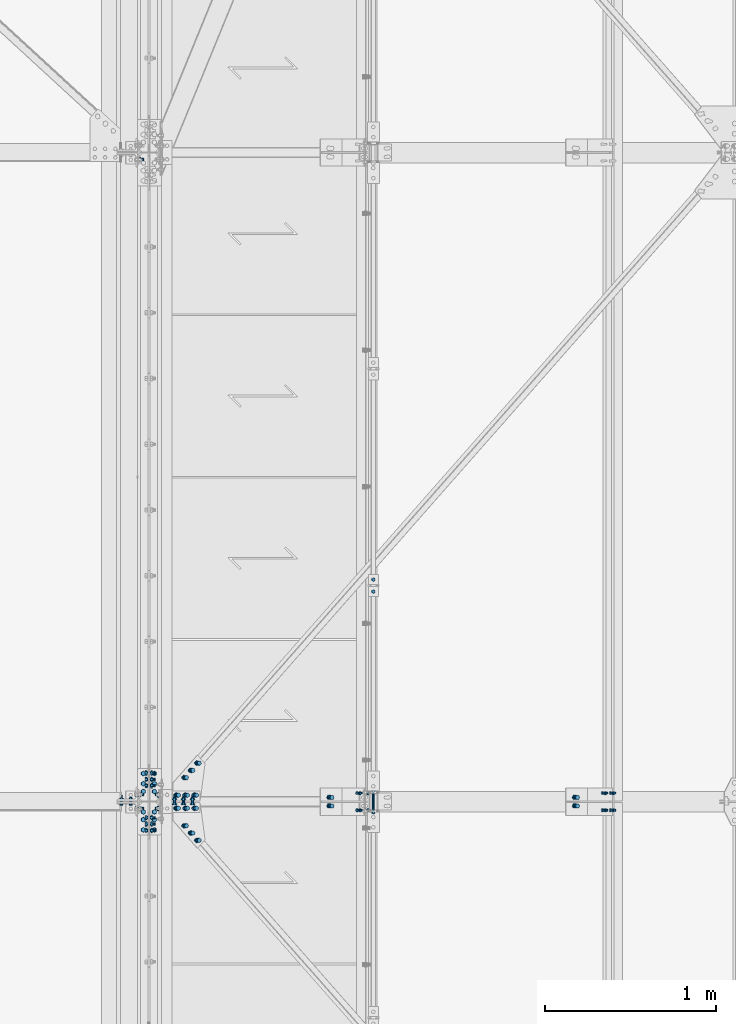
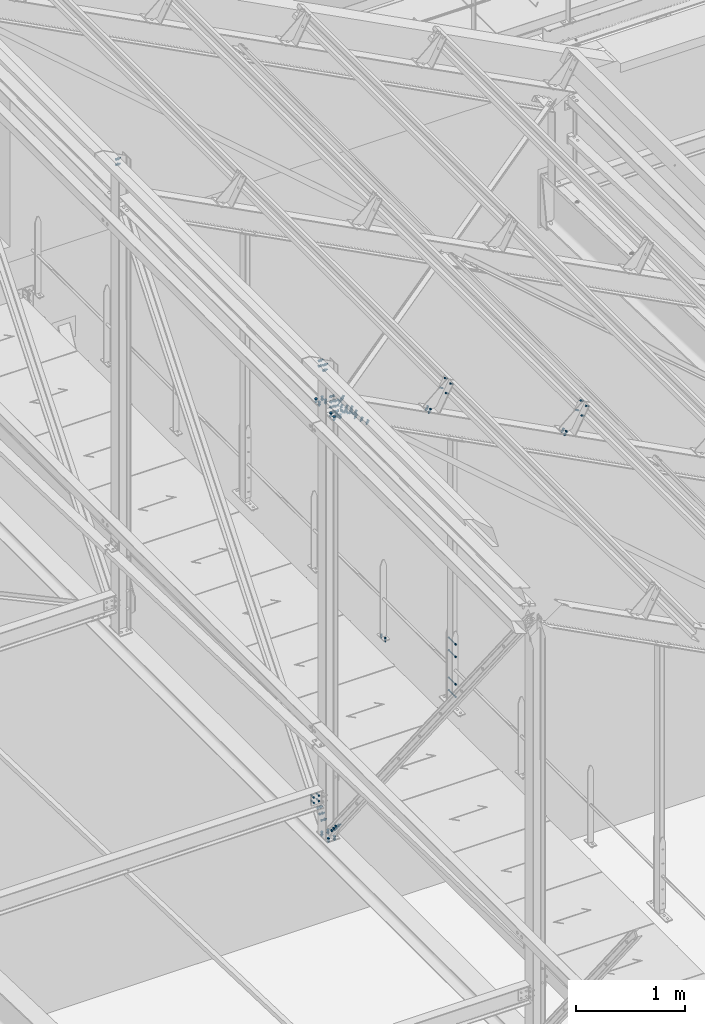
# One storey, part 153 of 362: 24 mechanical fasteners.
"""IFC2X3 building model written with IfcOpenShell, lengths in millimetres."""

from ifc_helpers import new_model, si_unit, frame, origin_with_axes, origin_2d_with_axis, place, context, subcontext, project, spatial, polyline, circle, outline, extrude, source, transform, mapped, material, type_object, element, save


model = new_model("IFC2X3")

# Units and contexts
model_context = context("Model", 3, precision=1e-05, world=origin_with_axes())
body_context = subcontext(model_context, "Body", "Model", "MODEL_VIEW")
ifc_project = project(units=[si_unit("LENGTHUNIT", "METRE", prefix="MILLI"), si_unit("AREAUNIT", "SQUARE_METRE"), si_unit("VOLUMEUNIT", "CUBIC_METRE"), si_unit("MASSUNIT", "GRAM", prefix="KILO"), si_unit("TIMEUNIT", "SECOND"), si_unit("PLANEANGLEUNIT", "RADIAN"), si_unit("SOLIDANGLEUNIT", "STERADIAN"), si_unit("THERMODYNAMICTEMPERATUREUNIT", "DEGREE_CELSIUS"), si_unit("LUMINOUSINTENSITYUNIT", "LUMEN")], contexts=[model_context])

# Site, building, storey
site_placement = place(None, origin_with_axes())
site = spatial("IfcSite", under=ifc_project, at=site_placement, Name="Undefined", CompositionType="ELEMENT")
building_placement = place(site_placement, origin_with_axes())
building = spatial("IfcBuilding", under=site, at=building_placement, Name="Undefined", CompositionType="ELEMENT")
storey_placement = place(building_placement, origin_with_axes())
storey = spatial("IfcBuildingStorey", under=building, at=storey_placement, Name="Undefined", CompositionType="ELEMENT", Elevation=0.0)

# Mechanical fasteners
ifc_material_1 = material(Name="#_SB-8.8-ZINGUE")
mechanical_fastener_type = type_object("IfcMechanicalFastenerType", Name="Bolt assembly")
shared_shape_1 = source(origin_with_axes(), body_context, "Body", "SweptSolid", [
    extrude(circle(Radius=9.0, at=origin_2d_with_axis()), frame((0.0, -5.8999542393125, 0.0), z_axis=(0.0, 1.0, 0.0), x_axis=(1.0, 0.0, 0.0)), (0.0, 0.0, 1.0), 6.0),
    extrude(circle(Radius=9.0, at=origin_2d_with_axis()), frame((0.0, -0.100011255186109, 0.0), z_axis=(0.0, 1.0, 0.0), x_axis=(1.0, 0.0, 0.0)), (0.0, 0.0, 1.0), 6.1),
    extrude(outline(polyline([(13.85640646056, 0.0), (6.92820323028, 12.0000000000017), (-6.92820323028, 12.0000000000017), (-13.85640646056, 0.0), (-6.92820323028, -12.0000000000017), (6.92820323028, -12.0000000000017), (13.85640646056, 0.0)])), frame((0.0, -16.5599735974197, 0.0), z_axis=(0.0, 1.0, 0.0), x_axis=(1.0, 0.0, 0.0)), (0.0, 0.0, 1.0), 10.56),
    extrude(circle(Radius=8.0, at=origin_2d_with_axis()), frame((0.0, -5.9999542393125, 0.0), z_axis=(0.0, 1.0, 0.0), x_axis=(1.0, 0.0, 0.0)), (0.0, 0.0, 1.0), 40.0),
    extrude(outline(polyline([(15.3344231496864, 0.0), (7.6672115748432, 13.2800000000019), (-7.6672115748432, 13.2800000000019), (-15.3344231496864, 0.0), (-7.6672115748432, -13.2800000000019), (7.6672115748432, -13.2800000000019), (15.3344231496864, 0.0)])), frame((0.0, 6.0, 0.0), z_axis=(0.0, 1.0, 0.0), x_axis=(1.0, 0.0, 0.0)), (0.0, 0.0, 1.0), 10.56),
])
for number, where, z_axis, x_axis, name in (
    (1, (12892.768595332, 7740.99049605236, 11959.887079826), (-0.628485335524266, 0.704921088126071, 0.328774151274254), (0.624617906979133, 0.7092857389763, -0.326750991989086), "Bolt assembly"),
    (2, (12892.7685915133, 7459.00950968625, 11959.8870840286), (0.628485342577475, 0.704921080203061, -0.328774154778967), (0.624617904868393, -0.709285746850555, -0.326750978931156), "Bolt assembly"),
):
    element("IfcMechanicalFastener", number, at=place(storey_placement, frame(where, z_axis=z_axis, x_axis=x_axis)), inside=storey, type_object=mechanical_fastener_type, material=ifc_material_1, Name=name, NominalDiameter=16.0, NominalLength=40.0, context=body_context, shape_type="MappedRepresentation", body=[
        mapped(shared_shape_1, transform((0.0, 0.0, 0.0))),
        mapped(shared_shape_1, transform((60.0, 0.0, 0.0))),
        mapped(shared_shape_1, transform((120.0, 0.0, 0.0))),
    ])
shared_shape_2 = source(origin_with_axes(), body_context, "Body", "SweptSolid", [
    extrude(circle(Radius=9.0, at=origin_2d_with_axis()), frame((0.0, 0.1, 0.0), z_axis=(0.0, 1.0, 0.0), x_axis=(1.0, 0.0, 0.0)), (0.0, 0.0, 1.0), 6.0),
    extrude(circle(Radius=9.0, at=origin_2d_with_axis()), frame((0.0, 5.90002706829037, 0.0), z_axis=(0.0, 1.0, 0.0), x_axis=(1.0, 0.0, 0.0)), (0.0, 0.0, 1.0), 6.1),
    extrude(outline(polyline([(13.85640646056, 0.0), (6.92820323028, 12.0000000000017), (-6.92820323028, 12.0000000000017), (-13.85640646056, 0.0), (-6.92820323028, -12.0000000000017), (6.92820323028, -12.0000000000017), (13.85640646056, 0.0)])), frame((0.0, -10.5600019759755, 0.0), z_axis=(0.0, 1.0, 0.0), x_axis=(1.0, 0.0, 0.0)), (0.0, 0.0, 1.0), 10.56),
    extrude(circle(Radius=8.0, at=origin_2d_with_axis()), frame((0.0, 0.0, 0.0), z_axis=(0.0, 1.0, 0.0), x_axis=(1.0, 0.0, 0.0)), (0.0, 0.0, 1.0), 40.0),
    extrude(outline(polyline([(15.3344231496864, 0.0), (7.6672115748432, 13.2800000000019), (-7.6672115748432, 13.2800000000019), (-15.3344231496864, 0.0), (-7.6672115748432, -13.2800000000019), (7.6672115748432, -13.2800000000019), (15.3344231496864, 0.0)])), frame((0.0, 12.0000270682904, 0.0), z_axis=(0.0, 1.0, 0.0), x_axis=(1.0, 0.0, 0.0)), (0.0, 0.0, 1.0), 10.56),
])
for number, where, z_axis, x_axis, name in (
    (3, (12901.5227343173, 7638.49990097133, 11955.3076026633), (0.886081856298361, 3.500000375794e-08, -0.463528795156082), (0.0, -1.0, 0.0), "Bolt assembly"),
    (4, (12901.5227347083, 7561.50010620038, 11955.3076030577), (-0.886082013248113, 9.38091927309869e-07, 0.463528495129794), (0.0, 1.0, 0.0), "Bolt assembly"),
):
    element("IfcMechanicalFastener", number, at=place(storey_placement, frame(where, z_axis=z_axis, x_axis=x_axis)), inside=storey, type_object=mechanical_fastener_type, material=ifc_material_1, Name=name, NominalDiameter=16.0, NominalLength=40.0, context=body_context, shape_type="MappedRepresentation", body=[
        mapped(shared_shape_2, transform((0.0, 0.0, -60.0))),
        mapped(shared_shape_2, transform((0.0, 0.0, 0.0))),
        mapped(shared_shape_2, transform((0.0, 0.0, 60.0))),
    ])
ifc_material_2 = material(Name="8.8-SB-ZINGUE")
shared_shape_3 = source(origin_with_axes(), body_context, "Body", "SweptSolid", [
    extrude(circle(Radius=9.0, at=origin_2d_with_axis()), frame((0.0, -10.9000000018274, 0.0), z_axis=(0.0, 1.0, 0.0), x_axis=(1.0, 0.0, 0.0)), (0.0, 0.0, 1.0), 6.0),
    extrude(circle(Radius=9.0, at=origin_2d_with_axis()), frame((0.0, 4.9000000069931, 0.0), z_axis=(0.0, 1.0, 0.0), x_axis=(1.0, 0.0, 0.0)), (0.0, 0.0, 1.0), 6.1),
    extrude(circle(Radius=9.0, at=origin_2d_with_axis()), frame((0.0, -3.99999923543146, 0.0), z_axis=(0.0, 1.0, 0.0), x_axis=(1.0, 0.0, 0.0)), (0.0, 0.0, 1.0), 8.0),
    extrude(outline(polyline([(13.85640646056, 0.0), (6.92820323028, 12.0000000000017), (-6.92820323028, 12.0000000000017), (-13.85640646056, 0.0), (-6.92820323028, -12.0000000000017), (6.92820323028, -12.0000000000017), (13.85640646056, 0.0)])), frame((0.0, -21.5600000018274, 0.0), z_axis=(0.0, 1.0, 0.0), x_axis=(1.0, 0.0, 0.0)), (0.0, 0.0, 1.0), 10.56),
    extrude(circle(Radius=8.0, at=origin_2d_with_axis()), frame((0.0, -11.0000000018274, 0.0), z_axis=(0.0, 1.0, 0.0), x_axis=(1.0, 0.0, 0.0)), (0.0, 0.0, 1.0), 50.0),
    extrude(outline(polyline([(15.3344231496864, 0.0), (7.6672115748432, 13.2800000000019), (-7.6672115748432, 13.2800000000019), (-15.3344231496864, 0.0), (-7.6672115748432, -13.2800000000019), (7.6672115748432, -13.2800000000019), (15.3344231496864, 0.0)])), frame((0.0, 11.0000000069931, 0.0), z_axis=(0.0, 1.0, 0.0), x_axis=(1.0, 0.0, 0.0)), (0.0, 0.0, 1.0), 10.56),
])
for number, where, z_axis, x_axis, name in (
    (5, (12680.0, 7506.73937054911, 7367.48384992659), (0.0, 0.783225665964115, 0.621737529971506), (0.0, -0.621737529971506, 0.783225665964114), "Bolt assembly"),
    (6, (12680.0, 7693.26062960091, 7367.48384980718), (0.0, 0.783225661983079, -0.621737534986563), (0.0, 0.621737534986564, 0.783225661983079), "Bolt assembly"),
):
    element("IfcMechanicalFastener", number, at=place(storey_placement, frame(where, z_axis=z_axis, x_axis=x_axis)), inside=storey, type_object=mechanical_fastener_type, material=ifc_material_2, Name=name, NominalDiameter=16.0, NominalLength=50.0, context=body_context, shape_type="MappedRepresentation", body=[
        mapped(shared_shape_3, transform((0.0, 0.0, 0.0))),
        mapped(shared_shape_3, transform((60.0, 0.0, 0.0))),
        mapped(shared_shape_3, transform((120.0, 0.0, 0.0))),
    ])
shared_shape_4 = source(origin_with_axes(), body_context, "Body", "SweptSolid", [
    extrude(circle(Radius=7.0, at=origin_2d_with_axis()), frame((0.0, -10.0000010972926, 0.0), z_axis=(0.0, 1.0, 0.0), x_axis=(1.0, 0.0, 0.0)), (0.0, 0.0, 1.0), 10.1),
    extrude(outline(polyline([(10.39230484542, 0.0), (5.19615242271, 9.00000000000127), (-5.19615242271, 9.00000000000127), (-10.39230484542, 0.0), (-5.19615242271, -9.00000000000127), (5.19615242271, -9.00000000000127), (10.39230484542, 0.0)])), frame((0.0, -17.92, 0.0), z_axis=(0.0, 1.0, 0.0), x_axis=(1.0, 0.0, 0.0)), (0.0, 0.0, 1.0), 7.92),
    extrude(circle(Radius=6.0, at=origin_2d_with_axis()), frame((0.0, -10.0000010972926, 0.0), z_axis=(0.0, 1.0, 0.0), x_axis=(1.0, 0.0, 0.0)), (0.0, 0.0, 1.0), 40.0),
    extrude(outline(polyline([(11.5008173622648, 0.0), (5.7504086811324, 9.96000000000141), (-5.7504086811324, 9.96000000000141), (-11.5008173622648, 0.0), (-5.7504086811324, -9.96000000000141), (5.7504086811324, -9.96000000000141), (11.5008173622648, 0.0)])), frame((0.0, 0.0, 0.0), z_axis=(0.0, 1.0, 0.0), x_axis=(1.0, 0.0, 0.0)), (0.0, 0.0, 1.0), 7.92),
])
mechanical_fastener_1_placement = place(storey_placement, frame((13993.9998888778, 8830.00344717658, 8240.00000102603), z_axis=(-1.0, 0.0, 0.0), x_axis=(0.0, 1.0, 0.0)))
element("IfcMechanicalFastener", 7, at=mechanical_fastener_1_placement, inside=storey, type_object=mechanical_fastener_type, material=ifc_material_2, Name="Bolt assembly", NominalDiameter=12.0, NominalLength=40.0, context=body_context, shape_type="MappedRepresentation", body=[
    mapped(shared_shape_4, transform((0.0, 0.0, 0.0))),
    mapped(shared_shape_4, transform((70.0, -2.91038304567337e-11, 2.18278728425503e-10))),
])
ifc_material_3 = material(Name="6.8")
shared_shape_5 = source(origin_with_axes(), body_context, "Body", "SweptSolid", [
    extrude(circle(Radius=7.0, at=origin_2d_with_axis()), frame((0.0, -49.9999013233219, 0.0), z_axis=(0.0, 1.0, 0.0), x_axis=(1.0, 0.0, 0.0)), (0.0, 0.0, 1.0), 100.0),
    extrude(circle(Radius=7.0, at=origin_2d_with_axis()), frame((0.0, -57.3998951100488, 0.0), z_axis=(0.0, 1.0, 0.0), x_axis=(1.0, 0.0, 0.0)), (0.0, 0.0, 1.0), 5.0),
    extrude(circle(Radius=7.0, at=origin_2d_with_axis()), frame((0.0, 52.4001048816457, 0.0), z_axis=(0.0, 1.0, 0.0), x_axis=(1.0, 0.0, 0.0)), (0.0, 0.0, 1.0), 5.1),
    extrude(outline(polyline([(10.96965511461, 0.0), (5.484827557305, 9.50000000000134), (-5.484827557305, 9.50000000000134), (-10.96965511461, 0.0), (-5.484827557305, -9.50000000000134), (5.484827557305, -9.50000000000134), (10.96965511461, 0.0)])), frame((0.0, -65.4998951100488, 0.0), z_axis=(0.0, 1.0, 0.0), x_axis=(1.0, 0.0, 0.0)), (0.0, 0.0, 1.0), 8.0),
    extrude(circle(Radius=6.0, at=origin_2d_with_axis()), frame((0.0, -57.4998951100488, 0.0), z_axis=(0.0, 1.0, 0.0), x_axis=(1.0, 0.0, 0.0)), (0.0, 0.0, 1.0), 130.0),
    extrude(outline(polyline([(10.39230484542, 0.0), (5.19615242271, 9.00000000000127), (-5.19615242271, 9.00000000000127), (-10.39230484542, 0.0), (-5.19615242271, -9.00000000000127), (5.19615242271, -9.00000000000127), (10.39230484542, 0.0)])), frame((0.0, 57.5001048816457, 0.0), z_axis=(0.0, 1.0, 0.0), x_axis=(1.0, 0.0, 0.0)), (0.0, 0.0, 1.0), 10.8),
])
for number, where, z_axis, x_axis, name in (
    (8, (13993.9998882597, 7600.00011396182, 8450.17500434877), (0.0, 0.0, 1.0), (-1.0, 0.0, 0.0), "Bolt assembly"),
    (9, (13993.9998882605, 7600.00011430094, 8897.42500135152), (0.0, 0.0, 1.0), (-1.0, 0.0, 0.0), "Bolt assembly"),
):
    element("IfcMechanicalFastener", number, at=place(storey_placement, frame(where, z_axis=z_axis, x_axis=x_axis)), inside=storey, type_object=mechanical_fastener_type, material=ifc_material_3, Name=name, NominalDiameter=12.0, NominalLength=130.0, context=body_context, shape_type="MappedRepresentation", body=[
        mapped(shared_shape_5, transform((0.0, 6.3664629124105e-11, -70.0))),
        mapped(shared_shape_5, transform((0.0, -6.3664629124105e-11, 70.0))),
    ])
shared_shape_6 = source(origin_with_axes(), body_context, "Body", "SweptSolid", [
    extrude(circle(Radius=7.0, at=origin_2d_with_axis()), frame((0.0, -0.100011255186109, 0.0), z_axis=(0.0, 1.0, 0.0), x_axis=(1.0, 0.0, 0.0)), (0.0, 0.0, 1.0), 1.6),
    extrude(circle(Radius=7.0, at=origin_2d_with_axis()), frame((0.0, -9.9, 0.0), z_axis=(0.0, 1.0, 0.0), x_axis=(1.0, 0.0, 0.0)), (0.0, 0.0, 1.0), 10.0),
    extrude(outline(polyline([(10.39230484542, 0.0), (5.19615242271, 9.00000000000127), (-5.19615242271, 9.00000000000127), (-10.39230484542, 0.0), (-5.19615242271, -9.00000000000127), (5.19615242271, -9.00000000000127), (10.39230484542, 0.0)])), frame((0.0, -17.92, 0.0), z_axis=(0.0, 1.0, 0.0), x_axis=(1.0, 0.0, 0.0)), (0.0, 0.0, 1.0), 7.92),
    extrude(circle(Radius=6.0, at=origin_2d_with_axis()), frame((0.0, -10.0000010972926, 0.0), z_axis=(0.0, 1.0, 0.0), x_axis=(1.0, 0.0, 0.0)), (0.0, 0.0, 1.0), 30.0),
    extrude(outline(polyline([(11.5008173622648, 0.0), (5.7504086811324, 9.96000000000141), (-5.7504086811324, 9.96000000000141), (-11.5008173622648, 0.0), (-5.7504086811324, -9.96000000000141), (5.7504086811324, -9.96000000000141), (11.5008173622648, 0.0)])), frame((0.0, 1.50001896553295, 0.0), z_axis=(0.0, 1.0, 0.0), x_axis=(1.0, 0.0, 0.0)), (0.0, 0.0, 1.0), 7.92),
])
for number, where, z_axis, x_axis, name in (
    (10, (13910.5352050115, 7649.9999403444, 11798.7689207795), (0.0, 1.0, 0.0), (0.463528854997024, 6.99999093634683e-09, 0.886081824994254), "Bolt assembly"),
    (11, (15347.8352476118, 7649.9999403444, 11046.8866305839), (0.0, 1.0, 0.0), (0.463528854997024, 6.99999093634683e-09, 0.886081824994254), "Bolt assembly"),
):
    element("IfcMechanicalFastener", number, at=place(storey_placement, frame(where, z_axis=z_axis, x_axis=x_axis)), inside=storey, type_object=mechanical_fastener_type, material=ifc_material_2, Name=name, NominalDiameter=12.0, NominalLength=30.0, context=body_context, shape_type="MappedRepresentation", body=[
        mapped(shared_shape_6, transform((0.0, 0.0, 0.0))),
        mapped(shared_shape_6, transform((102.00000000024, -2.51020537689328e-10, 0.0))),
    ])
shared_shape_7 = source(origin_with_axes(), body_context, "Body", "SweptSolid", [
    extrude(circle(Radius=7.0, at=origin_2d_with_axis()), frame((0.0, -0.10007666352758, 0.0), z_axis=(0.0, 1.0, 0.0), x_axis=(1.0, 0.0, 0.0)), (0.0, 0.0, 1.0), 1.6),
    extrude(circle(Radius=7.0, at=origin_2d_with_axis()), frame((0.0, -9.9, 0.0), z_axis=(0.0, 1.0, 0.0), x_axis=(1.0, 0.0, 0.0)), (0.0, 0.0, 1.0), 10.0),
    extrude(outline(polyline([(10.39230484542, 0.0), (5.19615242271, 9.00000000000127), (-5.19615242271, 9.00000000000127), (-10.39230484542, 0.0), (-5.19615242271, -9.00000000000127), (5.19615242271, -9.00000000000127), (10.39230484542, 0.0)])), frame((0.0, -17.92, 0.0), z_axis=(0.0, 1.0, 0.0), x_axis=(1.0, 0.0, 0.0)), (0.0, 0.0, 1.0), 7.92),
    extrude(circle(Radius=6.0, at=origin_2d_with_axis()), frame((0.0, -10.0000010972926, 0.0), z_axis=(0.0, 1.0, 0.0), x_axis=(1.0, 0.0, 0.0)), (0.0, 0.0, 1.0), 30.0),
    extrude(outline(polyline([(11.5008173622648, 0.0), (5.7504086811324, 9.96000000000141), (-5.7504086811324, 9.96000000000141), (-11.5008173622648, 0.0), (-5.7504086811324, -9.96000000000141), (5.7504086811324, -9.96000000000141), (11.5008173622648, 0.0)])), frame((0.0, 1.50001896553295, 0.0), z_axis=(0.0, 1.0, 0.0), x_axis=(1.0, 0.0, 0.0)), (0.0, 0.0, 1.0), 7.92),
])
for number, where, z_axis, x_axis, name in (
    (12, (13910.5352050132, 7550.0000596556, 11798.7689207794), (0.0, 1.0, 0.0), (0.463528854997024, 6.99999093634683e-09, 0.886081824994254), "Bolt assembly"),
    (13, (15347.8352476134, 7550.0000596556, 11046.8866305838), (0.0, 1.0, 0.0), (0.463528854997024, 6.99999093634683e-09, 0.886081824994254), "Bolt assembly"),
):
    element("IfcMechanicalFastener", number, at=place(storey_placement, frame(where, z_axis=z_axis, x_axis=x_axis)), inside=storey, type_object=mechanical_fastener_type, material=ifc_material_2, Name=name, NominalDiameter=12.0, NominalLength=30.0, context=body_context, shape_type="MappedRepresentation", body=[
        mapped(shared_shape_7, transform((0.0, 0.0, 0.0))),
        mapped(shared_shape_7, transform((102.00000000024, -2.51020537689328e-10, 0.0))),
    ])
shared_shape_8 = source(origin_with_axes(), body_context, "Body", "SweptSolid", [
    extrude(circle(Radius=9.0, at=origin_2d_with_axis()), frame((0.0, -0.10007666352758, 0.0), z_axis=(0.0, 1.0, 0.0), x_axis=(1.0, 0.0, 0.0)), (0.0, 0.0, 1.0), 9.9),
    extrude(circle(Radius=9.0, at=origin_2d_with_axis()), frame((0.0, -9.9, 0.0), z_axis=(0.0, 1.0, 0.0), x_axis=(1.0, 0.0, 0.0)), (0.0, 0.0, 1.0), 10.0),
    extrude(outline(polyline([(13.85640646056, 0.0), (6.92820323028, 12.0000000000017), (-6.92820323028, 12.0000000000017), (-13.85640646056, 0.0), (-6.92820323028, -12.0000000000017), (6.92820323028, -12.0000000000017), (13.85640646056, 0.0)])), frame((0.0, -20.5600000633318, 0.0), z_axis=(0.0, 1.0, 0.0), x_axis=(1.0, 0.0, 0.0)), (0.0, 0.0, 1.0), 10.56),
    extrude(circle(Radius=8.0, at=origin_2d_with_axis()), frame((0.0, -10.0000010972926, 0.0), z_axis=(0.0, 1.0, 0.0), x_axis=(1.0, 0.0, 0.0)), (0.0, 0.0, 1.0), 40.0),
    extrude(outline(polyline([(15.3344231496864, 0.0), (7.6672115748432, 13.2800000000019), (-7.6672115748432, 13.2800000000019), (-15.3344231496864, 0.0), (-7.6672115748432, -13.2800000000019), (7.6672115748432, -13.2800000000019), (15.3344231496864, 0.0)])), frame((0.0, 9.7999015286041, 0.0), z_axis=(0.0, 1.0, 0.0), x_axis=(1.0, 0.0, 0.0)), (0.0, 0.0, 1.0), 10.56),
])
mechanical_fastener_2_placement = place(storey_placement, frame((13742.7711781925, 7600.00003751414, 11650.660053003), z_axis=(0.0, 1.0, 0.0), x_axis=(0.886081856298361, 3.500000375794e-08, -0.463528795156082)))
element("IfcMechanicalFastener", 14, at=mechanical_fastener_2_placement, inside=storey, type_object=mechanical_fastener_type, material=ifc_material_2, Name="Bolt assembly", NominalDiameter=16.0, NominalLength=40.0, context=body_context, shape_type="MappedRepresentation", body=[
    mapped(shared_shape_8, transform((0.0, 0.0, -25.0))),
    mapped(shared_shape_8, transform((0.0, 0.0, 25.0))),
])
shared_shape_9 = source(origin_with_axes(), body_context, "Body", "SweptSolid", [
    extrude(circle(Radius=9.0, at=origin_2d_with_axis()), frame((0.0, -0.100011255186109, 0.0), z_axis=(0.0, 1.0, 0.0), x_axis=(1.0, 0.0, 0.0)), (0.0, 0.0, 1.0), 9.9),
    extrude(circle(Radius=9.0, at=origin_2d_with_axis()), frame((0.0, -9.9, 0.0), z_axis=(0.0, 1.0, 0.0), x_axis=(1.0, 0.0, 0.0)), (0.0, 0.0, 1.0), 10.0),
    extrude(outline(polyline([(13.85640646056, 0.0), (6.92820323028, 12.0000000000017), (-6.92820323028, 12.0000000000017), (-13.85640646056, 0.0), (-6.92820323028, -12.0000000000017), (6.92820323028, -12.0000000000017), (13.85640646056, 0.0)])), frame((0.0, -20.5600000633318, 0.0), z_axis=(0.0, 1.0, 0.0), x_axis=(1.0, 0.0, 0.0)), (0.0, 0.0, 1.0), 10.56),
    extrude(circle(Radius=8.0, at=origin_2d_with_axis()), frame((0.0, -10.0000010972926, 0.0), z_axis=(0.0, 1.0, 0.0), x_axis=(1.0, 0.0, 0.0)), (0.0, 0.0, 1.0), 40.0),
    extrude(outline(polyline([(15.3344231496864, 0.0), (7.6672115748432, 13.2800000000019), (-7.6672115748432, 13.2800000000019), (-15.3344231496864, 0.0), (-7.6672115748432, -13.2800000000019), (7.6672115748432, -13.2800000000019), (15.3344231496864, 0.0)])), frame((0.0, 9.80000019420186, 0.0), z_axis=(0.0, 1.0, 0.0), x_axis=(1.0, 0.0, 0.0)), (0.0, 0.0, 1.0), 10.56),
])
mechanical_fastener_3_placement = place(storey_placement, frame((15180.0712207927, 7600.00003751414, 10898.7777628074), z_axis=(0.0, 1.0, 0.0), x_axis=(0.886081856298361, 3.500000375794e-08, -0.463528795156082)))
element("IfcMechanicalFastener", 15, at=mechanical_fastener_3_placement, inside=storey, type_object=mechanical_fastener_type, material=ifc_material_2, Name="Bolt assembly", NominalDiameter=16.0, NominalLength=40.0, context=body_context, shape_type="MappedRepresentation", body=[
    mapped(shared_shape_9, transform((0.0, 0.0, -25.0))),
    mapped(shared_shape_9, transform((0.0, 0.0, 25.0))),
])
shared_shape_10 = source(origin_with_axes(), body_context, "Body", "SweptSolid", [
    extrude(circle(Radius=9.0, at=origin_2d_with_axis()), frame((0.0, -3.09999932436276, 0.0), z_axis=(0.0, 1.0, 0.0), x_axis=(1.0, 0.0, 0.0)), (0.0, 0.0, 1.0), 6.2),
    extrude(circle(Radius=9.0, at=origin_2d_with_axis()), frame((0.0, 3.3998951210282, 0.0), z_axis=(0.0, 1.0, 0.0), x_axis=(1.0, 0.0, 0.0)), (0.0, 0.0, 1.0), 6.1),
    extrude(circle(Radius=9.0, at=origin_2d_with_axis()), frame((0.0, -9.39989811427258, 0.0), z_axis=(0.0, 1.0, 0.0), x_axis=(1.0, 0.0, 0.0)), (0.0, 0.0, 1.0), 6.0),
    extrude(outline(polyline([(13.85640646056, 0.0), (6.92820323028, 12.0000000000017), (-6.92820323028, 12.0000000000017), (-13.85640646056, 0.0), (-6.92820323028, -12.0000000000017), (6.92820323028, -12.0000000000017), (13.85640646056, 0.0)])), frame((0.0, -20.0598981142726, 0.0), z_axis=(0.0, 1.0, 0.0), x_axis=(1.0, 0.0, 0.0)), (0.0, 0.0, 1.0), 10.56),
    extrude(circle(Radius=8.0, at=origin_2d_with_axis()), frame((0.0, -9.49989811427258, 0.0), z_axis=(0.0, 1.0, 0.0), x_axis=(1.0, 0.0, 0.0)), (0.0, 0.0, 1.0), 40.0),
    extrude(outline(polyline([(15.3344231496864, 0.0), (7.6672115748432, 13.2800000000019), (-7.6672115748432, 13.2800000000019), (-15.3344231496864, 0.0), (-7.6672115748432, -13.2800000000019), (7.6672115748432, -13.2800000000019), (15.3344231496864, 0.0)])), frame((0.0, 9.49989413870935, 0.0), z_axis=(0.0, 1.0, 0.0), x_axis=(1.0, 0.0, 0.0)), (0.0, 0.0, 1.0), 10.56),
])
mechanical_fastener_4_placement = place(storey_placement, frame((12882.5180327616, 7600.00000640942, 11918.9782201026), z_axis=(-0.886081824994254, 0.0, 0.463528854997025), x_axis=(0.463528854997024, 6.99999093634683e-09, 0.886081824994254)))
element("IfcMechanicalFastener", 16, at=mechanical_fastener_4_placement, inside=storey, type_object=mechanical_fastener_type, material=ifc_material_1, Name="Bolt assembly", NominalDiameter=16.0, NominalLength=40.0, context=body_context, shape_type="MappedRepresentation", body=[
    mapped(shared_shape_10, transform((0.0, 0.0, -60.0))),
    mapped(shared_shape_10, transform((0.0, 0.0, 0.0))),
    mapped(shared_shape_10, transform((0.0, 0.0, 60.0))),
])
shared_shape_11 = source(origin_with_axes(), body_context, "Body", "SweptSolid", [
    extrude(circle(Radius=9.0, at=origin_2d_with_axis()), frame((0.0, -0.091713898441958, 0.0), z_axis=(0.0, 1.0, 0.0), x_axis=(1.0, 0.0, 0.0)), (0.0, 0.0, 1.0), 8.6),
    extrude(circle(Radius=9.0, at=origin_2d_with_axis()), frame((0.0, -9.89171439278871, 0.0), z_axis=(0.0, 1.0, 0.0), x_axis=(1.0, 0.0, 0.0)), (0.0, 0.0, 1.0), 10.0),
    extrude(outline(polyline([(13.85640646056, 0.0), (6.92820323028, 12.0000000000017), (-6.92820323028, 12.0000000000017), (-13.85640646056, 0.0), (-6.92820323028, -12.0000000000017), (6.92820323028, -12.0000000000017), (13.85640646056, 0.0)])), frame((0.0, -20.5517143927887, 0.0), z_axis=(0.0, 1.0, 0.0), x_axis=(1.0, 0.0, 0.0)), (0.0, 0.0, 1.0), 10.56),
    extrude(circle(Radius=8.0, at=origin_2d_with_axis()), frame((0.0, -9.99171439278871, 0.0), z_axis=(0.0, 1.0, 0.0), x_axis=(1.0, 0.0, 0.0)), (0.0, 0.0, 1.0), 40.0),
    extrude(outline(polyline([(15.3344231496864, 0.0), (7.6672115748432, 13.2800000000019), (-7.6672115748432, 13.2800000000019), (-15.3344231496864, 0.0), (-7.6672115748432, -13.2800000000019), (7.6672115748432, -13.2800000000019), (15.3344231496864, 0.0)])), frame((0.0, 8.50828610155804, 0.0), z_axis=(0.0, 1.0, 0.0), x_axis=(1.0, 0.0, 0.0)), (0.0, 0.0, 1.0), 10.56),
])
mechanical_fastener_5_placement = place(storey_placement, frame((12746.5082856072, 7560.0, 12031.1720690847), z_axis=(0.0, 0.0, 1.0), x_axis=(0.0, 1.0, 0.0)))
element("IfcMechanicalFastener", 17, at=mechanical_fastener_5_placement, inside=storey, type_object=mechanical_fastener_type, material=ifc_material_2, Name="Bolt assembly", NominalDiameter=16.0, NominalLength=40.0, context=body_context, shape_type="MappedRepresentation", body=[
    mapped(shared_shape_11, transform((-8.00355337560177e-11, 1.57342583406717e-10, -90.000000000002))),
    mapped(shared_shape_11, transform((80.0, 0.0, -90.0))),
    mapped(shared_shape_11, transform((0.0, 0.0, -30.0))),
    mapped(shared_shape_11, transform((80.0, 0.0, -30.0))),
    mapped(shared_shape_11, transform((0.0, 0.0, 30.0))),
    mapped(shared_shape_11, transform((80.0, 0.0, 30.0))),
    mapped(shared_shape_11, transform((8.36735125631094e-11, -1.5825207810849e-10, 90.0))),
    mapped(shared_shape_11, transform((80.0, 0.0, 90.0))),
])
shared_shape_12 = source(origin_with_axes(), body_context, "Body", "SweptSolid", [
    extrude(circle(Radius=9.0, at=origin_2d_with_axis()), frame((0.0, -0.100011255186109, 0.0), z_axis=(0.0, 1.0, 0.0), x_axis=(1.0, 0.0, 0.0)), (0.0, 0.0, 1.0), 8.6),
    extrude(circle(Radius=9.0, at=origin_2d_with_axis()), frame((0.0, -2.9, 0.0), z_axis=(0.0, 1.0, 0.0), x_axis=(1.0, 0.0, 0.0)), (0.0, 0.0, 1.0), 3.0),
    extrude(outline(polyline([(13.85640646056, 0.0), (6.92820323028, 12.0000000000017), (-6.92820323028, 12.0000000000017), (-13.85640646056, 0.0), (-6.92820323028, -12.0000000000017), (6.92820323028, -12.0000000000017), (13.85640646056, 0.0)])), frame((0.0, -13.56, 0.0), z_axis=(0.0, 1.0, 0.0), x_axis=(1.0, 0.0, 0.0)), (0.0, 0.0, 1.0), 10.56),
    extrude(circle(Radius=8.0, at=origin_2d_with_axis()), frame((0.0, -2.99999932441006, 0.0), z_axis=(0.0, 1.0, 0.0), x_axis=(1.0, 0.0, 0.0)), (0.0, 0.0, 1.0), 40.0),
    extrude(outline(polyline([(15.3344231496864, 0.0), (7.6672115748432, 13.2800000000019), (-7.6672115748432, 13.2800000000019), (-15.3344231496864, 0.0), (-7.6672115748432, -13.2800000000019), (7.6672115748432, -13.2800000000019), (15.3344231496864, 0.0)])), frame((0.0, 8.49999994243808, 0.0), z_axis=(0.0, 1.0, 0.0), x_axis=(1.0, 0.0, 0.0)), (0.0, 0.0, 1.0), 10.56),
])
for number, where, z_axis, x_axis, name in (
    (18, (12613.5000000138, 7639.99695097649, 12503.832072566), (0.0, 1.0, 0.0), (0.0, 0.0, 1.0), "Bolt assembly"),
    (19, (12613.5000000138, 7559.99999584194, 12503.832072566), (0.0, 1.0, 0.0), (0.0, 0.0, 1.0), "Bolt assembly"),
    (20, (12613.5000000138, 11359.9999958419, 12503.832072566), (0.0, 1.0, 0.0), (0.0, 0.0, 1.0), "Bolt assembly"),
):
    element("IfcMechanicalFastener", number, at=place(storey_placement, frame(where, z_axis=z_axis, x_axis=x_axis)), inside=storey, type_object=mechanical_fastener_type, material=ifc_material_2, Name=name, NominalDiameter=16.0, NominalLength=40.0, context=body_context, shape_type="MappedRepresentation", body=[
        mapped(shared_shape_12, transform((0.0, 0.0, 0.0))),
        mapped(shared_shape_12, transform((60.0, 0.0, 0.0))),
    ])
shared_shape_13 = source(origin_with_axes(), body_context, "Body", "SweptSolid", [
    extrude(circle(Radius=7.0, at=origin_2d_with_axis()), frame((0.0, -2.80024280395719, 0.0), z_axis=(0.0, 1.0, 0.0), x_axis=(1.0, 0.0, 0.0)), (0.0, 0.0, 1.0), 5.6),
    extrude(circle(Radius=7.0, at=origin_2d_with_axis()), frame((0.0, -12.9001594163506, 0.0), z_axis=(0.0, 1.0, 0.0), x_axis=(1.0, 0.0, 0.0)), (0.0, 0.0, 1.0), 10.0),
    extrude(circle(Radius=7.0, at=origin_2d_with_axis()), frame((0.0, 2.90070287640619, 0.0), z_axis=(0.0, 1.0, 0.0), x_axis=(1.0, 0.0, 0.0)), (0.0, 0.0, 1.0), 10.1),
    extrude(outline(polyline([(10.39230484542, 0.0), (5.19615242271, 9.00000000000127), (-5.19615242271, 9.00000000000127), (-10.39230484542, 0.0), (-5.19615242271, -9.00000000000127), (5.19615242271, -9.00000000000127), (10.39230484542, 0.0)])), frame((0.0, -20.9201594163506, 0.0), z_axis=(0.0, 1.0, 0.0), x_axis=(1.0, 0.0, 0.0)), (0.0, 0.0, 1.0), 7.92),
    extrude(circle(Radius=6.0, at=origin_2d_with_axis()), frame((0.0, -13.0001594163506, 0.0), z_axis=(0.0, 1.0, 0.0), x_axis=(1.0, 0.0, 0.0)), (0.0, 0.0, 1.0), 50.0),
    extrude(outline(polyline([(11.5008173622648, 0.0), (5.7504086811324, 9.96000000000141), (-5.7504086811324, 9.96000000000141), (-11.5008173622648, 0.0), (-5.7504086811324, -9.96000000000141), (5.7504086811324, -9.96000000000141), (11.5008173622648, 0.0)])), frame((0.0, 13.0007028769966, 0.0), z_axis=(0.0, 1.0, 0.0), x_axis=(1.0, 0.0, 0.0)), (0.0, 0.0, 1.0), 7.92),
])
mechanical_fastener_6_placement = place(storey_placement, frame((12518.4999999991, 7600.00019986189, 7711.11094101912), z_axis=(7.58071938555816e-11, 0.0314107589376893, 0.999506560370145), x_axis=(0.999999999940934, -1.08559999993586e-05, 5.27999997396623e-07)))
element("IfcMechanicalFastener", 21, at=mechanical_fastener_6_placement, inside=storey, type_object=mechanical_fastener_type, material=ifc_material_2, Name="Bolt assembly", NominalDiameter=12.0, NominalLength=50.0, context=body_context, shape_type="MappedRepresentation", body=[
    mapped(shared_shape_13, transform((0.0, 0.0, -30.0))),
    mapped(shared_shape_13, transform((55.0000000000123, 3.45607986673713e-11, -30.0000000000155))),
    mapped(shared_shape_13, transform((0.0, 0.0, 30.0))),
    mapped(shared_shape_13, transform((54.9999999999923, 3.45607986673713e-11, 29.9999999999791))),
])
shared_shape_14 = source(origin_with_axes(), body_context, "Body", "SweptSolid", [
    extrude(circle(Radius=9.0, at=origin_2d_with_axis()), frame((0.0, -8.40001950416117, 0.0), z_axis=(0.0, 1.0, 0.0), x_axis=(1.0, 0.0, 0.0)), (0.0, 0.0, 1.0), 8.5),
    extrude(circle(Radius=9.0, at=origin_2d_with_axis()), frame((0.0, -0.100011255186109, 0.0), z_axis=(0.0, 1.0, 0.0), x_axis=(1.0, 0.0, 0.0)), (0.0, 0.0, 1.0), 10.1),
    extrude(outline(polyline([(13.85640646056, 0.0), (6.92820323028, 12.0000000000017), (-6.92820323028, 12.0000000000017), (-13.85640646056, 0.0), (-6.92820323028, -12.0000000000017), (6.92820323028, -12.0000000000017), (13.85640646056, 0.0)])), frame((0.0, -19.0599999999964, 0.0), z_axis=(0.0, 1.0, 0.0), x_axis=(1.0, 0.0, 0.0)), (0.0, 0.0, 1.0), 10.56),
    extrude(circle(Radius=8.0, at=origin_2d_with_axis()), frame((0.0, -8.5, 0.0), z_axis=(0.0, 1.0, 0.0), x_axis=(1.0, 0.0, 0.0)), (0.0, 0.0, 1.0), 40.0),
    extrude(outline(polyline([(15.3344231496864, 0.0), (7.6672115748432, 13.2800000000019), (-7.6672115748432, 13.2800000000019), (-15.3344231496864, 0.0), (-7.6672115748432, -13.2800000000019), (7.6672115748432, -13.2800000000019), (15.3344231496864, 0.0)])), frame((0.0, 10.0000000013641, 0.0), z_axis=(0.0, 1.0, 0.0), x_axis=(1.0, 0.0, 0.0)), (0.0, 0.0, 1.0), 10.56),
])
mechanical_fastener_7_placement = place(storey_placement, frame((12680.0000000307, 7494.99692211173, 12037.0), z_axis=(1.0, 0.0, 0.0), x_axis=(0.0, -1.0, 0.0)))
element("IfcMechanicalFastener", 22, at=mechanical_fastener_7_placement, inside=storey, type_object=mechanical_fastener_type, material=ifc_material_2, Name="Bolt assembly", NominalDiameter=16.0, NominalLength=40.0, context=body_context, shape_type="MappedRepresentation", body=[
    mapped(shared_shape_14, transform((0.0, 0.0, 32.5))),
    mapped(shared_shape_14, transform((60.0, 0.0, 32.5))),
    mapped(shared_shape_14, transform((0.0, 0.0, -32.5))),
    mapped(shared_shape_14, transform((60.0, 0.0, -32.5))),
])
mechanical_fastener_8_placement = place(storey_placement, frame((12680.0000000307, 7705.0, 12037.0), z_axis=(-1.0, 0.0, 0.0), x_axis=(0.0, 1.0, 0.0)))
element("IfcMechanicalFastener", 23, at=mechanical_fastener_8_placement, inside=storey, type_object=mechanical_fastener_type, material=ifc_material_2, Name="Bolt assembly", NominalDiameter=16.0, NominalLength=40.0, context=body_context, shape_type="MappedRepresentation", body=[
    mapped(shared_shape_14, transform((0.0, 0.0, -32.5))),
    mapped(shared_shape_14, transform((60.0, 0.0, -32.5))),
    mapped(shared_shape_14, transform((0.0, 0.0, 32.5))),
    mapped(shared_shape_14, transform((60.0, 0.0, 32.5))),
])
shared_shape_15 = source(origin_with_axes(), body_context, "Body", "SweptSolid", [
    extrude(circle(Radius=9.0, at=origin_2d_with_axis()), frame((0.0, -0.100011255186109, 0.0), z_axis=(0.0, 1.0, 0.0), x_axis=(1.0, 0.0, 0.0)), (0.0, 0.0, 1.0), 10.1),
    extrude(circle(Radius=9.0, at=origin_2d_with_axis()), frame((0.0, -9.9, 0.0), z_axis=(0.0, 1.0, 0.0), x_axis=(1.0, 0.0, 0.0)), (0.0, 0.0, 1.0), 10.0),
    extrude(outline(polyline([(13.85640646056, 0.0), (6.92820323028, 12.0000000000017), (-6.92820323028, 12.0000000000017), (-13.85640646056, 0.0), (-6.92820323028, -12.0000000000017), (6.92820323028, -12.0000000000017), (13.85640646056, 0.0)])), frame((0.0, -20.5600000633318, 0.0), z_axis=(0.0, 1.0, 0.0), x_axis=(1.0, 0.0, 0.0)), (0.0, 0.0, 1.0), 10.56),
    extrude(circle(Radius=8.0, at=origin_2d_with_axis()), frame((0.0, -10.0000010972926, 0.0), z_axis=(0.0, 1.0, 0.0), x_axis=(1.0, 0.0, 0.0)), (0.0, 0.0, 1.0), 40.0),
    extrude(outline(polyline([(15.3344231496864, 0.0), (7.6672115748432, 13.2800000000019), (-7.6672115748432, 13.2800000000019), (-15.3344231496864, 0.0), (-7.6672115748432, -13.2800000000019), (7.6672115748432, -13.2800000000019), (15.3344231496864, 0.0)])), frame((0.0, 10.0000000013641, 0.0), z_axis=(0.0, 1.0, 0.0), x_axis=(1.0, 0.0, 0.0)), (0.0, 0.0, 1.0), 10.56),
])
mechanical_fastener_9_placement = place(storey_placement, frame((12680.0, 7540.00000000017, 7249.99996842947), z_axis=(-1.0, 0.0, 0.0), x_axis=(0.0, 1.0, 0.0)))
element("IfcMechanicalFastener", 24, at=mechanical_fastener_9_placement, inside=storey, type_object=mechanical_fastener_type, material=ifc_material_2, Name="Bolt assembly", NominalDiameter=16.0, NominalLength=40.0, context=body_context, shape_type="MappedRepresentation", body=[
    mapped(shared_shape_15, transform((0.0, 0.0, -32.5))),
    mapped(shared_shape_15, transform((120.0, 0.0, -32.5))),
    mapped(shared_shape_15, transform((0.0, 0.0, 32.5))),
    mapped(shared_shape_15, transform((120.0, 0.0, 32.5))),
])

save(model, "model.ifc")
